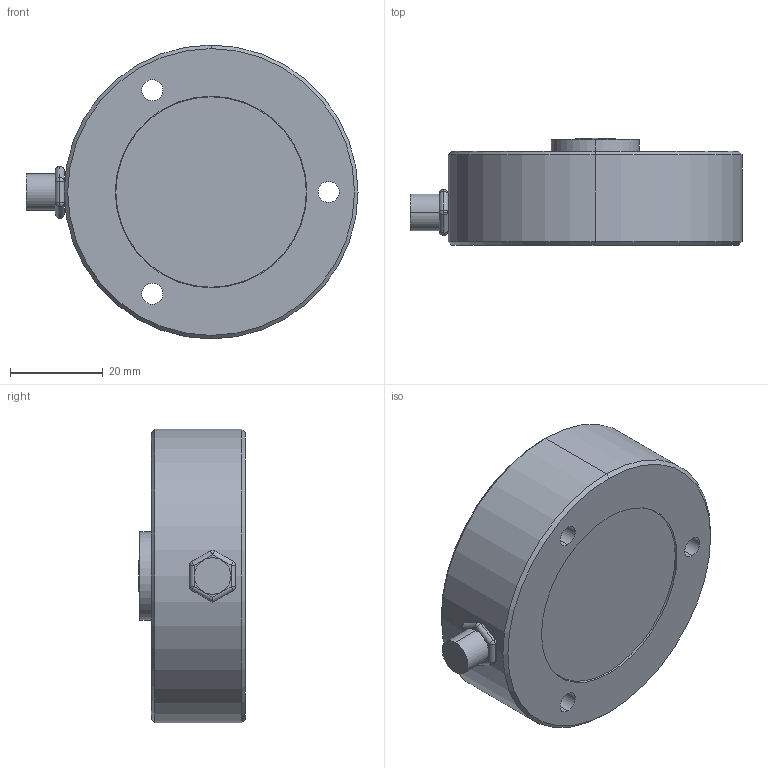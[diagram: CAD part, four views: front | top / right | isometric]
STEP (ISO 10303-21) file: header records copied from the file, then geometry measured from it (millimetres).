
FILE_DESCRIPTION (( 'STEP AP203' ), '1' );
FILE_NAME ('FINAL ASBY SS1175-20K.STEP', '2022-12-13T15:27:11', ( '' ), ( '' ), 'SwSTEP 2.0', 'SolidWorks 2008', '' );
FILE_SCHEMA (( 'CONFIG_CONTROL_DESIGN' ));
Length unit declared in the file: inch
Products named in the file (1): FINAL ASBY SS1175-20K
Bounding box: 71.75 x 23.11 x 63.5 mm (x, y, z)
Volume: 63289.2 mm3; surface area: 12077.6 mm2
Topology: 2 solids, 2 shells, 60 faces, 132 edges, 74 vertices
Faces by surface type: cylinder 34, sphere 12, plane 10, cone 4
Entity records: 1661 total; most frequent: DIRECTION 316, CARTESIAN_POINT 260, ORIENTED_EDGE 242, AXIS2_PLACEMENT_3D 136, EDGE_CURVE 121, CIRCLE 75, EDGE_LOOP 73, VERTEX_POINT 72
